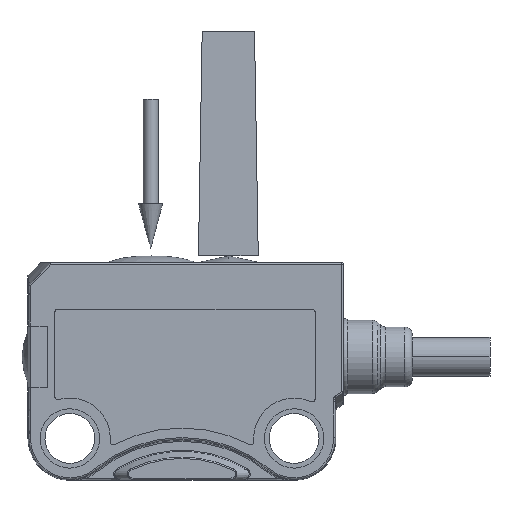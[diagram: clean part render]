
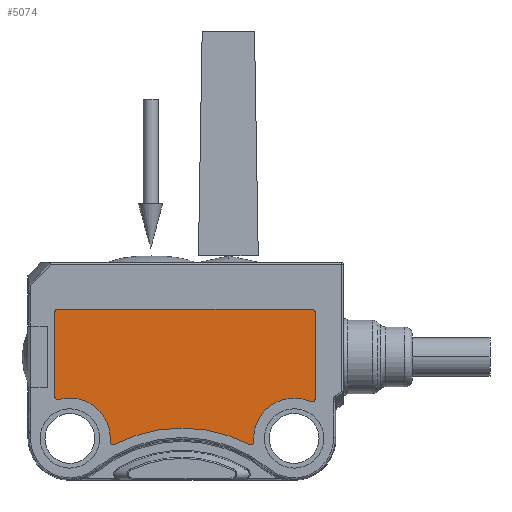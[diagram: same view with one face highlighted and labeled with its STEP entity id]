
A CAD part, left-side view. The second image highlights one B-rep face of the part: STEP entity #5074.
In plain terms, the highlighted planar face has unit normal (-1, 0, 0).
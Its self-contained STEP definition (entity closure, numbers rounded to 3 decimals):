
#527=CIRCLE('',#5522,0.2);
#528=CIRCLE('',#5525,0.2);
#529=CIRCLE('',#5527,2.7);
#530=CIRCLE('',#5528,0.2);
#531=CIRCLE('',#5529,9.8);
#532=CIRCLE('',#5530,0.2);
#533=CIRCLE('',#5531,2.7);
#534=CIRCLE('',#5532,0.2);
#535=CIRCLE('',#5533,0.2);
#726=FACE_OUTER_BOUND('',#1040,.T.);
#1040=EDGE_LOOP('',(#3898,#3899,#3900,#3901,#3902,#3903,#3904,#3905,#3906,
#3907,#3908,#3909));
#1362=LINE('',#10682,#1718);
#1366=LINE('',#10691,#1722);
#1367=LINE('',#10705,#1723);
#1718=VECTOR('',#6471,10.);
#1722=VECTOR('',#6481,10.);
#1723=VECTOR('',#6494,10.);
#2229=VERTEX_POINT('',#10675);
#2230=VERTEX_POINT('',#10676);
#2231=VERTEX_POINT('',#10681);
#2232=VERTEX_POINT('',#10685);
#2233=VERTEX_POINT('',#10686);
#2234=VERTEX_POINT('',#10692);
#2235=VERTEX_POINT('',#10694);
#2236=VERTEX_POINT('',#10696);
#2237=VERTEX_POINT('',#10698);
#2238=VERTEX_POINT('',#10700);
#2239=VERTEX_POINT('',#10702);
#2240=VERTEX_POINT('',#10704);
#2832=EDGE_CURVE('',#2229,#2230,#527,.T.);
#2835=EDGE_CURVE('',#2231,#2229,#1362,.T.);
#2837=EDGE_CURVE('',#2232,#2233,#528,.T.);
#2840=EDGE_CURVE('',#2230,#2232,#1366,.T.);
#2841=EDGE_CURVE('',#2233,#2234,#529,.T.);
#2842=EDGE_CURVE('',#2234,#2235,#530,.T.);
#2843=EDGE_CURVE('',#2235,#2236,#531,.T.);
#2844=EDGE_CURVE('',#2236,#2237,#532,.T.);
#2845=EDGE_CURVE('',#2237,#2238,#533,.T.);
#2846=EDGE_CURVE('',#2238,#2239,#534,.T.);
#2847=EDGE_CURVE('',#2239,#2240,#1367,.T.);
#2848=EDGE_CURVE('',#2240,#2231,#535,.T.);
#3898=ORIENTED_EDGE('',*,*,#2832,.T.);
#3899=ORIENTED_EDGE('',*,*,#2840,.T.);
#3900=ORIENTED_EDGE('',*,*,#2837,.T.);
#3901=ORIENTED_EDGE('',*,*,#2841,.T.);
#3902=ORIENTED_EDGE('',*,*,#2842,.T.);
#3903=ORIENTED_EDGE('',*,*,#2843,.T.);
#3904=ORIENTED_EDGE('',*,*,#2844,.T.);
#3905=ORIENTED_EDGE('',*,*,#2845,.T.);
#3906=ORIENTED_EDGE('',*,*,#2846,.T.);
#3907=ORIENTED_EDGE('',*,*,#2847,.T.);
#3908=ORIENTED_EDGE('',*,*,#2848,.T.);
#3909=ORIENTED_EDGE('',*,*,#2835,.T.);
#4541=PLANE('',#5526);
#5074=ADVANCED_FACE('',(#726),#4541,.T.);
#5522=AXIS2_PLACEMENT_3D('',#10677,#6465,#6466);
#5525=AXIS2_PLACEMENT_3D('',#10687,#6475,#6476);
#5526=AXIS2_PLACEMENT_3D('',#10690,#6479,#6480);
#5527=AXIS2_PLACEMENT_3D('',#10693,#6482,#6483);
#5528=AXIS2_PLACEMENT_3D('',#10695,#6484,#6485);
#5529=AXIS2_PLACEMENT_3D('',#10697,#6486,#6487);
#5530=AXIS2_PLACEMENT_3D('',#10699,#6488,#6489);
#5531=AXIS2_PLACEMENT_3D('',#10701,#6490,#6491);
#5532=AXIS2_PLACEMENT_3D('',#10703,#6492,#6493);
#5533=AXIS2_PLACEMENT_3D('',#10706,#6495,#6496);
#6465=DIRECTION('center_axis',(-1.,0.,0.));
#6466=DIRECTION('ref_axis',(0.,0.707,0.707));
#6471=DIRECTION('',(0.,1.,0.));
#6475=DIRECTION('center_axis',(-1.,0.,0.));
#6476=DIRECTION('ref_axis',(0.,0.602,-0.799));
#6479=DIRECTION('center_axis',(-1.,0.,0.));
#6480=DIRECTION('ref_axis',(0.,0.,-1.));
#6481=DIRECTION('',(0.,0.,-1.));
#6482=DIRECTION('center_axis',(1.,0.,0.));
#6483=DIRECTION('ref_axis',(0.,-0.975,-0.224));
#6484=DIRECTION('center_axis',(-1.,0.,0.));
#6485=DIRECTION('ref_axis',(0.,0.553,-0.833));
#6486=DIRECTION('center_axis',(1.,0.,0.));
#6487=DIRECTION('ref_axis',(0.,-0.497,0.868));
#6488=DIRECTION('center_axis',(-1.,0.,0.));
#6489=DIRECTION('ref_axis',(0.,-0.553,-0.833));
#6490=DIRECTION('center_axis',(1.,0.,0.));
#6491=DIRECTION('ref_axis',(0.,-0.519,0.855));
#6492=DIRECTION('center_axis',(-1.,0.,0.));
#6493=DIRECTION('ref_axis',(0.,-0.541,-0.841));
#6494=DIRECTION('',(0.,0.,1.));
#6495=DIRECTION('center_axis',(-1.,0.,0.));
#6496=DIRECTION('ref_axis',(0.,-0.707,0.707));
#10675=CARTESIAN_POINT('',(-3.98,19.1,-3.1));
#10676=CARTESIAN_POINT('',(-3.98,19.3,-3.3));
#10677=CARTESIAN_POINT('Origin',(-3.98,19.1,-3.3));
#10681=CARTESIAN_POINT('',(-3.98,2.1,-3.1));
#10682=CARTESIAN_POINT('',(-3.98,19.3,-3.1));
#10685=CARTESIAN_POINT('',(-3.98,19.3,-8.963));
#10686=CARTESIAN_POINT('',(-3.98,19.045,-9.155));
#10687=CARTESIAN_POINT('Origin',(-3.98,19.1,-8.963));
#10690=CARTESIAN_POINT('Origin',(-3.98,10.577,-7.14));
#10691=CARTESIAN_POINT('',(-3.98,19.3,-9.242));
#10692=CARTESIAN_POINT('',(-3.98,15.609,-11.969));
#10693=CARTESIAN_POINT('Origin',(-3.98,18.3,-11.75));
#10694=CARTESIAN_POINT('',(-3.98,15.317,-12.163));
#10695=CARTESIAN_POINT('Origin',(-3.98,15.41,-11.986));
#10696=CARTESIAN_POINT('',(-3.98,6.283,-12.163));
#10697=CARTESIAN_POINT('Origin',(-3.98,10.8,-20.86));
#10698=CARTESIAN_POINT('',(-3.98,5.991,-11.969));
#10699=CARTESIAN_POINT('Origin',(-3.98,6.19,-11.986));
#10700=CARTESIAN_POINT('',(-3.98,2.183,-9.292));
#10701=CARTESIAN_POINT('Origin',(-3.98,3.3,-11.75));
#10702=CARTESIAN_POINT('',(-3.98,1.9,-9.11));
#10703=CARTESIAN_POINT('Origin',(-3.98,2.1,-9.11));
#10704=CARTESIAN_POINT('',(-3.98,1.9,-3.3));
#10705=CARTESIAN_POINT('',(-3.98,1.9,-3.1));
#10706=CARTESIAN_POINT('Origin',(-3.98,2.1,-3.3));
